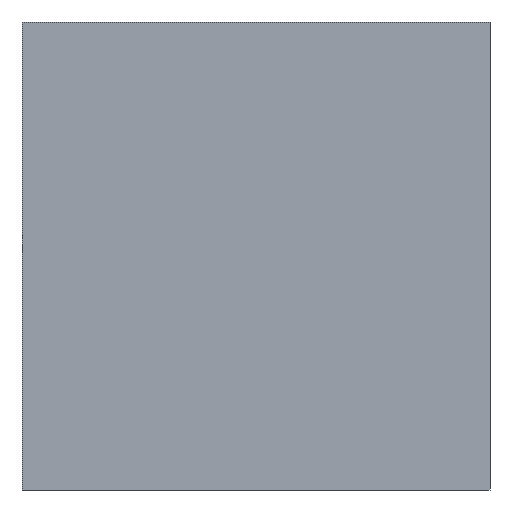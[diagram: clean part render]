
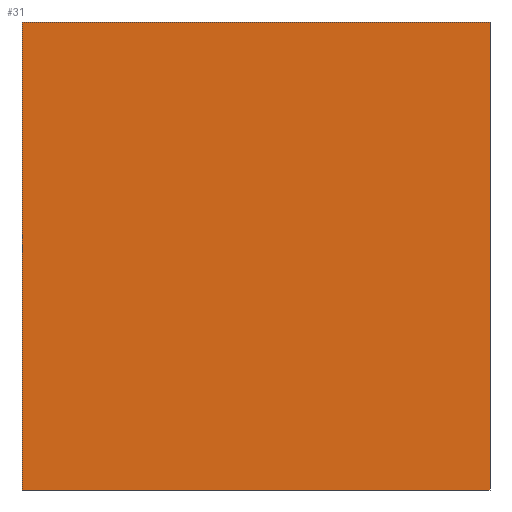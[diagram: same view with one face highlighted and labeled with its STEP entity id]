
A CAD part, left-side view. The second image highlights one B-rep face of the part: STEP entity #31.
In plain terms, the highlighted planar face has unit normal (-1, 0, 0).
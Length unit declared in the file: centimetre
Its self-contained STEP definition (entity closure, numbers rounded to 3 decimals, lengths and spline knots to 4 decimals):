
#16 = EDGE_CURVE ( 'NONE', #214, #591, #583, .T. ) ;
#31 = ADVANCED_FACE ( 'NONE', ( #572 ), #486, .F. ) ;
#46 = VERTEX_POINT ( 'NONE', #525 ) ;
#52 = ORIENTED_EDGE ( 'NONE', *, *, #1024, .T. ) ;
#60 = LINE ( 'NONE', #861, #236 ) ;
#79 = CARTESIAN_POINT ( 'NONE',  ( 0., 1000., 1000. ) ) ;
#128 = CARTESIAN_POINT ( 'NONE',  ( 0., 1000., 0. ) ) ;
#143 = CARTESIAN_POINT ( 'NONE',  ( 0., 1000., 0. ) ) ;
#154 = CARTESIAN_POINT ( 'NONE',  ( 0., 1000., 1000. ) ) ;
#181 = AXIS2_PLACEMENT_3D ( 'NONE', #79, #405, #251 ) ;
#211 = DIRECTION ( 'NONE',  ( 0., -1., 0. ) ) ;
#214 = VERTEX_POINT ( 'NONE', #490 ) ;
#236 = VECTOR ( 'NONE', #959, 100. ) ;
#251 = DIRECTION ( 'NONE',  ( 0., 0., -1. ) ) ;
#282 = VERTEX_POINT ( 'NONE', #916 ) ;
#340 = CARTESIAN_POINT ( 'NONE',  ( 0., 1000., 1000. ) ) ;
#405 = DIRECTION ( 'NONE',  ( 1., 0., 0. ) ) ;
#470 = VECTOR ( 'NONE', #550, 100. ) ;
#486 = PLANE ( 'NONE',  #181 ) ;
#490 = CARTESIAN_POINT ( 'NONE',  ( 0., 1000., 1000. ) ) ;
#523 = ORIENTED_EDGE ( 'NONE', *, *, #553, .F. ) ;
#525 = CARTESIAN_POINT ( 'NONE',  ( 0., 0., 1000. ) ) ;
#550 = DIRECTION ( 'NONE',  ( 0., -1., 0. ) ) ;
#553 = EDGE_CURVE ( 'NONE', #214, #46, #940, .T. ) ;
#572 = FACE_OUTER_BOUND ( 'NONE', #658, .T. ) ;
#583 = LINE ( 'NONE', #340, #671 ) ;
#591 = VERTEX_POINT ( 'NONE', #143 ) ;
#616 = ORIENTED_EDGE ( 'NONE', *, *, #16, .T. ) ;
#658 = EDGE_LOOP ( 'NONE', ( #52, #928, #523, #616 ) ) ;
#671 = VECTOR ( 'NONE', #1044, 100. ) ;
#680 = EDGE_CURVE ( 'NONE', #46, #282, #60, .T. ) ;
#687 = VECTOR ( 'NONE', #211, 100. ) ;
#861 = CARTESIAN_POINT ( 'NONE',  ( 0., 0., 1000. ) ) ;
#916 = CARTESIAN_POINT ( 'NONE',  ( 0., 0., 0. ) ) ;
#928 = ORIENTED_EDGE ( 'NONE', *, *, #680, .F. ) ;
#933 = LINE ( 'NONE', #128, #687 ) ;
#940 = LINE ( 'NONE', #154, #470 ) ;
#959 = DIRECTION ( 'NONE',  ( 0., 0., -1. ) ) ;
#1024 = EDGE_CURVE ( 'NONE', #591, #282, #933, .T. ) ;
#1044 = DIRECTION ( 'NONE',  ( 0., 0., -1. ) ) ;
